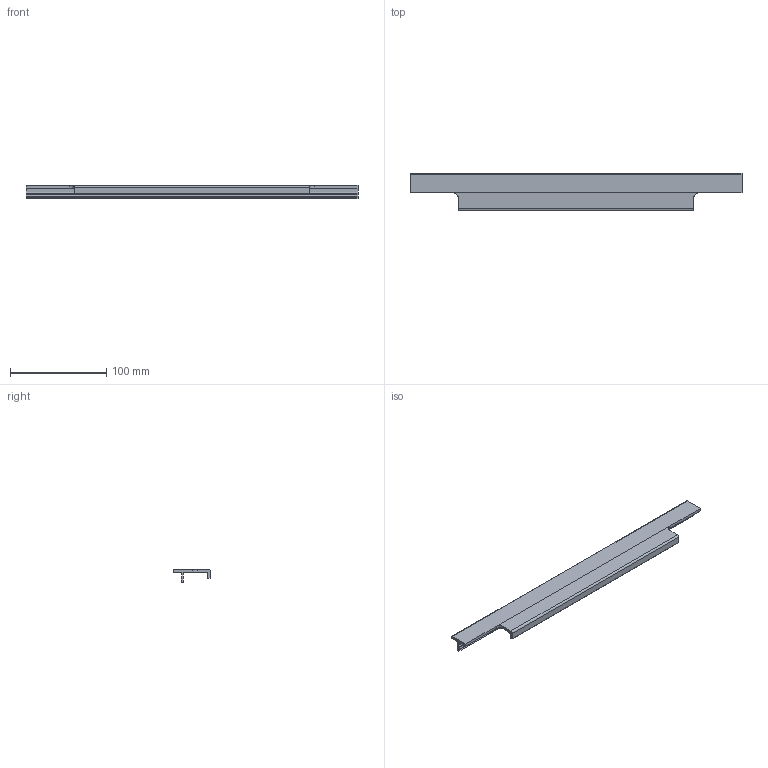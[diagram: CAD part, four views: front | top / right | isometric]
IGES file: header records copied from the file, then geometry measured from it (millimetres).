
Start section: Data from Parasolid IGES Translator 15.0.47, Copyright(c) 2006 Siemens P LM Software. All Rights Reserved.
Global section: file name: 9105816.igs; native system:  By UGS Corp.; preprocessor: XPlus GENERIC/IGES 3.0; author: Noname; organization: Noname; date: 20140122.180038; units: millimetre
Bounding box: 345 x 39 x 14 mm (x, y, z)
Surface area: 35989.8 mm2 (no closed solid volume)
Topology: 0 solids, 0 shells, 40 faces, 224 edges, 224 vertices
Faces by surface type: extrusion 30, revolution 10
